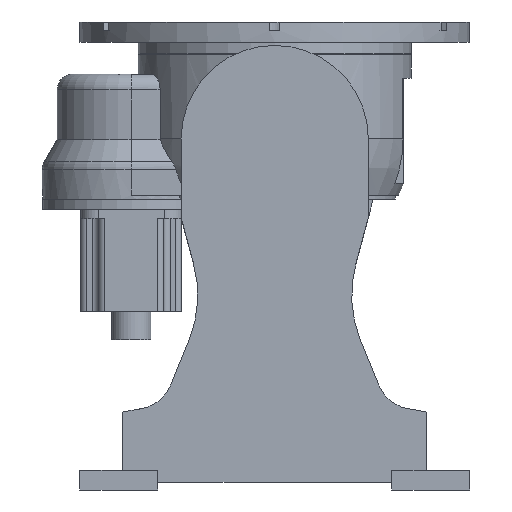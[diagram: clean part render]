
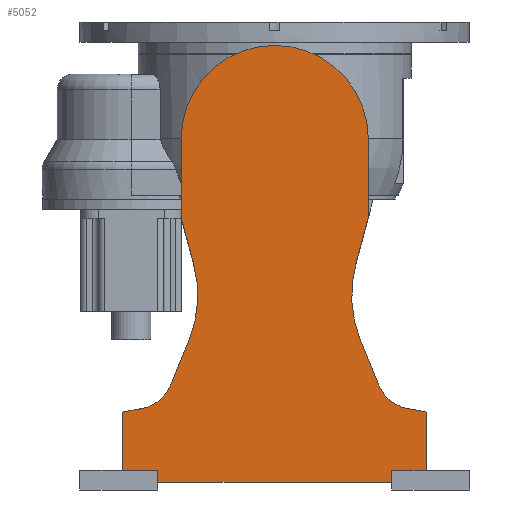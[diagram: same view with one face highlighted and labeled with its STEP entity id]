
A CAD part, front view. The second image highlights one B-rep face of the part: STEP entity #5052.
In plain terms, the highlighted planar face has unit normal (0, -1, 0).
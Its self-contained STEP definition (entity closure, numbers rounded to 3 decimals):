
#163=PLANE($,#5377);
#351=FACE_OUTER_BOUND($,#627,.T.);
#627=EDGE_LOOP($,(#3425,#3426,#3427,#3428,#3429,#3430,#3431,#3432,#3433,
#3434,#3435,#3436,#3437,#3438,#3439,#3440,#3441,#3442,#3443,#3444));
#896=LINE($,#7356,#1359);
#913=LINE($,#7409,#1376);
#916=LINE($,#7420,#1379);
#928=LINE($,#7453,#1391);
#940=LINE($,#7509,#1403);
#978=LINE($,#7652,#1441);
#983=LINE($,#7659,#1446);
#984=LINE($,#7662,#1447);
#986=LINE($,#7666,#1449);
#987=LINE($,#7668,#1450);
#988=LINE($,#7670,#1451);
#989=LINE($,#7671,#1452);
#990=LINE($,#7673,#1453);
#991=LINE($,#7677,#1454);
#992=LINE($,#7678,#1455);
#1359=VECTOR($,#5848,24.432);
#1376=VECTOR($,#5893,63.324);
#1379=VECTOR($,#5904,63.324);
#1391=VECTOR($,#5934,62.863);
#1403=VECTOR($,#5964,24.432);
#1441=VECTOR($,#6050,15.);
#1446=VECTOR($,#6057,45.);
#1447=VECTOR($,#6062,75.);
#1449=VECTOR($,#6066,300.);
#1450=VECTOR($,#6067,15.);
#1451=VECTOR($,#6068,45.);
#1452=VECTOR($,#6069,75.);
#1453=VECTOR($,#6070,100.8);
#1454=VECTOR($,#6073,100.8);
#1455=VECTOR($,#6074,62.863);
#1817=CIRCLE($,#5310,50.);
#1822=CIRCLE($,#5325,50.);
#1824=CIRCLE($,#5329,150.);
#1829=CIRCLE($,#5338,150.);
#1838=CIRCLE($,#5378,120.);
#2032=VERTEX_POINT($,#7338);
#2033=VERTEX_POINT($,#7340);
#2039=VERTEX_POINT($,#7354);
#2057=VERTEX_POINT($,#7397);
#2058=VERTEX_POINT($,#7399);
#2061=VERTEX_POINT($,#7407);
#2063=VERTEX_POINT($,#7412);
#2064=VERTEX_POINT($,#7414);
#2071=VERTEX_POINT($,#7437);
#2077=VERTEX_POINT($,#7451);
#2090=VERTEX_POINT($,#7508);
#2126=VERTEX_POINT($,#7650);
#2127=VERTEX_POINT($,#7651);
#2128=VERTEX_POINT($,#7657);
#2129=VERTEX_POINT($,#7665);
#2130=VERTEX_POINT($,#7667);
#2131=VERTEX_POINT($,#7669);
#2132=VERTEX_POINT($,#7672);
#2133=VERTEX_POINT($,#7674);
#2134=VERTEX_POINT($,#7676);
#2509=EDGE_CURVE($,#2032,#2033,#1817,.T.);
#2517=EDGE_CURVE($,#2032,#2039,#896,.T.);
#2537=EDGE_CURVE($,#2057,#2058,#1822,.T.);
#2542=EDGE_CURVE($,#2057,#2061,#913,.T.);
#2544=EDGE_CURVE($,#2063,#2064,#1824,.T.);
#2547=EDGE_CURVE($,#2033,#2063,#916,.T.);
#2557=EDGE_CURVE($,#2071,#2061,#1829,.T.);
#2564=EDGE_CURVE($,#2077,#2071,#928,.T.);
#2581=EDGE_CURVE($,#2058,#2090,#940,.T.);
#2631=EDGE_CURVE($,#2126,#2127,#978,.T.);
#2636=EDGE_CURVE($,#2128,#2126,#983,.T.);
#2637=EDGE_CURVE($,#2039,#2128,#984,.T.);
#2639=EDGE_CURVE($,#2127,#2129,#986,.T.);
#2640=EDGE_CURVE($,#2129,#2130,#987,.T.);
#2641=EDGE_CURVE($,#2130,#2131,#988,.T.);
#2642=EDGE_CURVE($,#2090,#2131,#989,.T.);
#2643=EDGE_CURVE($,#2077,#2132,#990,.T.);
#2644=EDGE_CURVE($,#2132,#2133,#1838,.T.);
#2645=EDGE_CURVE($,#2133,#2134,#991,.T.);
#2646=EDGE_CURVE($,#2064,#2134,#992,.T.);
#3425=ORIENTED_EDGE($,*,*,#2636,.T.);
#3426=ORIENTED_EDGE($,*,*,#2631,.T.);
#3427=ORIENTED_EDGE($,*,*,#2639,.T.);
#3428=ORIENTED_EDGE($,*,*,#2640,.T.);
#3429=ORIENTED_EDGE($,*,*,#2641,.T.);
#3430=ORIENTED_EDGE($,*,*,#2642,.F.);
#3431=ORIENTED_EDGE($,*,*,#2581,.F.);
#3432=ORIENTED_EDGE($,*,*,#2537,.F.);
#3433=ORIENTED_EDGE($,*,*,#2542,.T.);
#3434=ORIENTED_EDGE($,*,*,#2557,.F.);
#3435=ORIENTED_EDGE($,*,*,#2564,.F.);
#3436=ORIENTED_EDGE($,*,*,#2643,.T.);
#3437=ORIENTED_EDGE($,*,*,#2644,.T.);
#3438=ORIENTED_EDGE($,*,*,#2645,.T.);
#3439=ORIENTED_EDGE($,*,*,#2646,.F.);
#3440=ORIENTED_EDGE($,*,*,#2544,.F.);
#3441=ORIENTED_EDGE($,*,*,#2547,.F.);
#3442=ORIENTED_EDGE($,*,*,#2509,.F.);
#3443=ORIENTED_EDGE($,*,*,#2517,.T.);
#3444=ORIENTED_EDGE($,*,*,#2637,.T.);
#5052=ADVANCED_FACE($,(#351),#163,.T.);
#5310=AXIS2_PLACEMENT_3D($,#7341,#5835,#5836);
#5325=AXIS2_PLACEMENT_3D($,#7400,#5884,#5885);
#5329=AXIS2_PLACEMENT_3D($,#7415,#5897,#5898);
#5338=AXIS2_PLACEMENT_3D($,#7439,#5923,#5924);
#5377=AXIS2_PLACEMENT_3D($,#7664,#6064,#6065);
#5378=AXIS2_PLACEMENT_3D($,#7675,#6071,#6072);
#5835=DIRECTION('center_axis',(0.,-1.,0.));
#5836=DIRECTION('ref_axis',(0.174,0.,-0.985));
#5848=DIRECTION($,(-0.985,0.,-0.174));
#5884=DIRECTION('center_axis',(0.,-1.,0.));
#5885=DIRECTION('ref_axis',(-0.927,0.,-0.375));
#5893=DIRECTION($,(-0.375,0.,0.927));
#5897=DIRECTION('center_axis',(0.,-1.,0.));
#5898=DIRECTION('ref_axis',(0.927,0.,-0.375));
#5904=DIRECTION($,(0.375,0.,0.927));
#5923=DIRECTION('center_axis',(0.,-1.,0.));
#5924=DIRECTION('ref_axis',(-0.966,0.,0.259));
#5934=DIRECTION($,(-0.259,0.,-0.966));
#5964=DIRECTION($,(0.985,0.,-0.174));
#6050=DIRECTION($,(0.,0.,-1.));
#6057=DIRECTION($,(1.,0.,0.));
#6062=DIRECTION($,(0.,0.,-1.));
#6064=DIRECTION('center_axis',(0.,-1.,0.));
#6065=DIRECTION('ref_axis',(0.,0.,-1.));
#6066=DIRECTION($,(1.,0.,0.));
#6067=DIRECTION($,(0.,0.,1.));
#6068=DIRECTION($,(1.,0.,0.));
#6069=DIRECTION($,(0.,0.,-1.));
#6070=DIRECTION($,(0.,0.,1.));
#6071=DIRECTION('center_axis',(0.,-1.,0.));
#6072=DIRECTION('ref_axis',(1.,0.,0.));
#6073=DIRECTION($,(0.,0.,-1.));
#6074=DIRECTION($,(-0.259,0.,0.966));
#7338=CARTESIAN_POINT('',(-170.939,-330.,-345.757));
#7340=CARTESIAN_POINT('',(-133.263,-330.,-315.247));
#7341=CARTESIAN_POINT('Origin',(-179.622,-330.,-296.517));
#7354=CARTESIAN_POINT('',(-195.,-330.,-350.));
#7356=CARTESIAN_POINT($,(-170.939,-330.,-345.757));
#7397=CARTESIAN_POINT('',(133.263,-330.,-315.247));
#7399=CARTESIAN_POINT('',(170.939,-330.,-345.757));
#7400=CARTESIAN_POINT('Origin',(179.622,-330.,-296.517));
#7407=CARTESIAN_POINT('',(109.541,-330.,-256.535));
#7409=CARTESIAN_POINT($,(133.263,-330.,-315.247));
#7412=CARTESIAN_POINT('',(-109.541,-330.,-256.535));
#7414=CARTESIAN_POINT('',(-103.73,-330.,-161.521));
#7415=CARTESIAN_POINT('Origin',(-248.619,-330.,-200.344));
#7420=CARTESIAN_POINT($,(-133.263,-330.,-315.247));
#7437=CARTESIAN_POINT('',(103.73,-330.,-161.521));
#7439=CARTESIAN_POINT('Origin',(248.619,-330.,-200.344));
#7451=CARTESIAN_POINT('',(120.,-330.,-100.8));
#7453=CARTESIAN_POINT($,(120.,-330.,-100.8));
#7508=CARTESIAN_POINT('',(195.,-330.,-350.));
#7509=CARTESIAN_POINT($,(170.939,-330.,-345.757));
#7650=CARTESIAN_POINT('',(-150.,-330.,-425.));
#7651=CARTESIAN_POINT('',(-150.,-330.,-440.));
#7652=CARTESIAN_POINT($,(-150.,-330.,-425.));
#7657=CARTESIAN_POINT('',(-195.,-330.,-425.));
#7659=CARTESIAN_POINT($,(-195.,-330.,-425.));
#7662=CARTESIAN_POINT($,(-195.,-330.,-350.));
#7664=CARTESIAN_POINT('Origin',(-234.,-330.,1256.));
#7665=CARTESIAN_POINT('',(150.,-330.,-440.));
#7666=CARTESIAN_POINT($,(-150.,-330.,-440.));
#7667=CARTESIAN_POINT('',(150.,-330.,-425.));
#7668=CARTESIAN_POINT($,(150.,-330.,-440.));
#7669=CARTESIAN_POINT('',(195.,-330.,-425.));
#7670=CARTESIAN_POINT($,(150.,-330.,-425.));
#7671=CARTESIAN_POINT($,(195.,-330.,-350.));
#7672=CARTESIAN_POINT('',(120.,-330.,0.));
#7673=CARTESIAN_POINT($,(120.,-330.,-100.8));
#7674=CARTESIAN_POINT('',(-120.,-330.,0.));
#7675=CARTESIAN_POINT('Origin',(0.,-330.,0.));
#7676=CARTESIAN_POINT('',(-120.,-330.,-100.8));
#7677=CARTESIAN_POINT($,(-120.,-330.,0.));
#7678=CARTESIAN_POINT($,(-103.73,-330.,-161.521));
